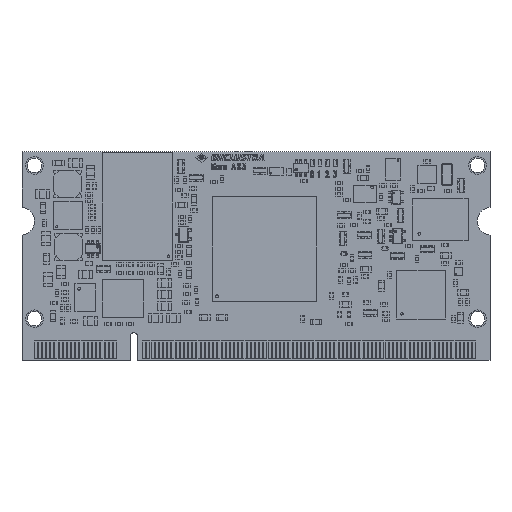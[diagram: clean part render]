
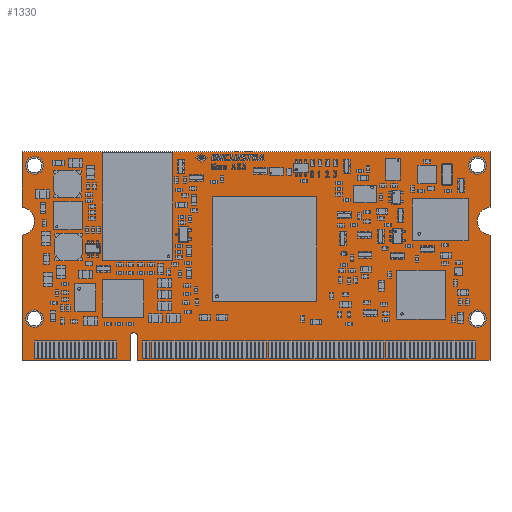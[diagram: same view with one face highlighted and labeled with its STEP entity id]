
A CAD part, top view. The second image highlights one B-rep face of the part: STEP entity #1330.
In plain terms, the highlighted planar face has unit normal (0, 0, 1).
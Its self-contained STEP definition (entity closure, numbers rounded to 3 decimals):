
#795 = VERTEX_POINT('',#796);
#796 = CARTESIAN_POINT('',(0.,0.,0.));
#802 = EDGE_CURVE('',#795,#803,#805,.T.);
#803 = VERTEX_POINT('',#804);
#804 = CARTESIAN_POINT('',(15.55,0.,0.));
#805 = LINE('',#806,#807);
#806 = CARTESIAN_POINT('',(0.,0.,0.));
#807 = VECTOR('',#808,1.);
#808 = DIRECTION('',(1.,0.,0.));
#833 = EDGE_CURVE('',#803,#834,#836,.T.);
#834 = VERTEX_POINT('',#835);
#835 = CARTESIAN_POINT('',(15.55,3.5,0.));
#836 = LINE('',#837,#838);
#837 = CARTESIAN_POINT('',(15.55,0.,0.));
#838 = VECTOR('',#839,1.);
#839 = DIRECTION('',(0.,1.,0.));
#864 = EDGE_CURVE('',#834,#865,#867,.T.);
#865 = VERTEX_POINT('',#866);
#866 = CARTESIAN_POINT('',(16.55,3.5,0.));
#867 = CIRCLE('',#868,0.5);
#868 = AXIS2_PLACEMENT_3D('',#869,#870,#871);
#869 = CARTESIAN_POINT('',(16.05,3.5,0.));
#870 = DIRECTION('',(0.,0.,-1.));
#871 = DIRECTION('',(-1.,0.,0.));
#897 = EDGE_CURVE('',#865,#898,#900,.T.);
#898 = VERTEX_POINT('',#899);
#899 = CARTESIAN_POINT('',(16.55,0.,0.));
#900 = LINE('',#901,#902);
#901 = CARTESIAN_POINT('',(16.55,3.5,0.));
#902 = VECTOR('',#903,1.);
#903 = DIRECTION('',(0.,-1.,0.));
#928 = EDGE_CURVE('',#898,#929,#931,.T.);
#929 = VERTEX_POINT('',#930);
#930 = CARTESIAN_POINT('',(67.2,0.,0.));
#931 = LINE('',#932,#933);
#932 = CARTESIAN_POINT('',(16.55,0.,0.));
#933 = VECTOR('',#934,1.);
#934 = DIRECTION('',(1.,0.,0.));
#959 = EDGE_CURVE('',#929,#960,#962,.T.);
#960 = VERTEX_POINT('',#961);
#961 = CARTESIAN_POINT('',(67.2,18.,0.));
#962 = LINE('',#963,#964);
#963 = CARTESIAN_POINT('',(67.2,0.,0.));
#964 = VECTOR('',#965,1.);
#965 = DIRECTION('',(0.,1.,0.));
#990 = EDGE_CURVE('',#960,#991,#993,.T.);
#991 = VERTEX_POINT('',#992);
#992 = CARTESIAN_POINT('',(67.2,22.,0.));
#993 = CIRCLE('',#994,2.01);
#994 = AXIS2_PLACEMENT_3D('',#995,#996,#997);
#995 = CARTESIAN_POINT('',(67.4,20.,0.));
#996 = DIRECTION('',(0.,0.,-1.));
#997 = DIRECTION('',(-0.099,-0.995,0.));
#1023 = EDGE_CURVE('',#991,#1024,#1026,.T.);
#1024 = VERTEX_POINT('',#1025);
#1025 = CARTESIAN_POINT('',(67.2,30.,0.));
#1026 = LINE('',#1027,#1028);
#1027 = CARTESIAN_POINT('',(67.2,22.,0.));
#1028 = VECTOR('',#1029,1.);
#1029 = DIRECTION('',(0.,1.,0.));
#1054 = EDGE_CURVE('',#1024,#1055,#1057,.T.);
#1055 = VERTEX_POINT('',#1056);
#1056 = CARTESIAN_POINT('',(0.,30.,0.));
#1057 = LINE('',#1058,#1059);
#1058 = CARTESIAN_POINT('',(67.2,30.,0.));
#1059 = VECTOR('',#1060,1.);
#1060 = DIRECTION('',(-1.,0.,0.));
#1085 = EDGE_CURVE('',#1055,#1086,#1088,.T.);
#1086 = VERTEX_POINT('',#1087);
#1087 = CARTESIAN_POINT('',(0.,22.,0.));
#1088 = LINE('',#1089,#1090);
#1089 = CARTESIAN_POINT('',(0.,30.,0.));
#1090 = VECTOR('',#1091,1.);
#1091 = DIRECTION('',(0.,-1.,0.));
#1116 = EDGE_CURVE('',#1086,#1117,#1119,.T.);
#1117 = VERTEX_POINT('',#1118);
#1118 = CARTESIAN_POINT('',(0.,18.,0.));
#1119 = CIRCLE('',#1120,2.011);
#1120 = AXIS2_PLACEMENT_3D('',#1121,#1122,#1123);
#1121 = CARTESIAN_POINT('',(-0.21,20.,0.));
#1122 = DIRECTION('',(0.,0.,-1.));
#1123 = DIRECTION('',(0.104,0.995,0.));
#1149 = EDGE_CURVE('',#1117,#795,#1150,.T.);
#1150 = LINE('',#1151,#1152);
#1151 = CARTESIAN_POINT('',(0.,18.,0.));
#1152 = VECTOR('',#1153,1.);
#1153 = DIRECTION('',(0.,-1.,0.));
#1173 = VERTEX_POINT('',#1174);
#1174 = CARTESIAN_POINT('',(2.85,6.,0.));
#1180 = EDGE_CURVE('',#1173,#1173,#1181,.T.);
#1181 = CIRCLE('',#1182,1.05);
#1182 = AXIS2_PLACEMENT_3D('',#1183,#1184,#1185);
#1183 = CARTESIAN_POINT('',(1.8,6.,0.));
#1184 = DIRECTION('',(0.,0.,1.));
#1185 = DIRECTION('',(1.,0.,0.));
#1206 = VERTEX_POINT('',#1207);
#1207 = CARTESIAN_POINT('',(2.85,28.,0.));
#1213 = EDGE_CURVE('',#1206,#1206,#1214,.T.);
#1214 = CIRCLE('',#1215,1.05);
#1215 = AXIS2_PLACEMENT_3D('',#1216,#1217,#1218);
#1216 = CARTESIAN_POINT('',(1.8,28.,0.));
#1217 = DIRECTION('',(0.,0.,1.));
#1218 = DIRECTION('',(1.,0.,0.));
#1239 = VERTEX_POINT('',#1240);
#1240 = CARTESIAN_POINT('',(66.45,6.,0.));
#1246 = EDGE_CURVE('',#1239,#1239,#1247,.T.);
#1247 = CIRCLE('',#1248,1.05);
#1248 = AXIS2_PLACEMENT_3D('',#1249,#1250,#1251);
#1249 = CARTESIAN_POINT('',(65.4,6.,0.));
#1250 = DIRECTION('',(0.,0.,1.));
#1251 = DIRECTION('',(1.,0.,0.));
#1272 = VERTEX_POINT('',#1273);
#1273 = CARTESIAN_POINT('',(66.45,28.,0.));
#1279 = EDGE_CURVE('',#1272,#1272,#1280,.T.);
#1280 = CIRCLE('',#1281,1.05);
#1281 = AXIS2_PLACEMENT_3D('',#1282,#1283,#1284);
#1282 = CARTESIAN_POINT('',(65.4,28.,0.));
#1283 = DIRECTION('',(0.,0.,1.));
#1284 = DIRECTION('',(1.,0.,0.));
#1330 = ADVANCED_FACE('',(#1331,#1345,#1348,#1351,#1354),#1357,.F.);
#1331 = FACE_BOUND('',#1332,.T.);
#1332 = EDGE_LOOP('',(#1333,#1334,#1335,#1336,#1337,#1338,#1339,#1340,
    #1341,#1342,#1343,#1344));
#1333 = ORIENTED_EDGE('',*,*,#802,.T.);
#1334 = ORIENTED_EDGE('',*,*,#833,.T.);
#1335 = ORIENTED_EDGE('',*,*,#864,.T.);
#1336 = ORIENTED_EDGE('',*,*,#897,.T.);
#1337 = ORIENTED_EDGE('',*,*,#928,.T.);
#1338 = ORIENTED_EDGE('',*,*,#959,.T.);
#1339 = ORIENTED_EDGE('',*,*,#990,.T.);
#1340 = ORIENTED_EDGE('',*,*,#1023,.T.);
#1341 = ORIENTED_EDGE('',*,*,#1054,.T.);
#1342 = ORIENTED_EDGE('',*,*,#1085,.T.);
#1343 = ORIENTED_EDGE('',*,*,#1116,.T.);
#1344 = ORIENTED_EDGE('',*,*,#1149,.T.);
#1345 = FACE_BOUND('',#1346,.F.);
#1346 = EDGE_LOOP('',(#1347));
#1347 = ORIENTED_EDGE('',*,*,#1180,.T.);
#1348 = FACE_BOUND('',#1349,.F.);
#1349 = EDGE_LOOP('',(#1350));
#1350 = ORIENTED_EDGE('',*,*,#1213,.T.);
#1351 = FACE_BOUND('',#1352,.F.);
#1352 = EDGE_LOOP('',(#1353));
#1353 = ORIENTED_EDGE('',*,*,#1246,.T.);
#1354 = FACE_BOUND('',#1355,.F.);
#1355 = EDGE_LOOP('',(#1356));
#1356 = ORIENTED_EDGE('',*,*,#1279,.T.);
#1357 = PLANE('',#1358);
#1358 = AXIS2_PLACEMENT_3D('',#1359,#1360,#1361);
#1359 = CARTESIAN_POINT('',(0.,0.,0.));
#1360 = DIRECTION('',(0.,0.,-1.));
#1361 = DIRECTION('',(-1.,0.,0.));
